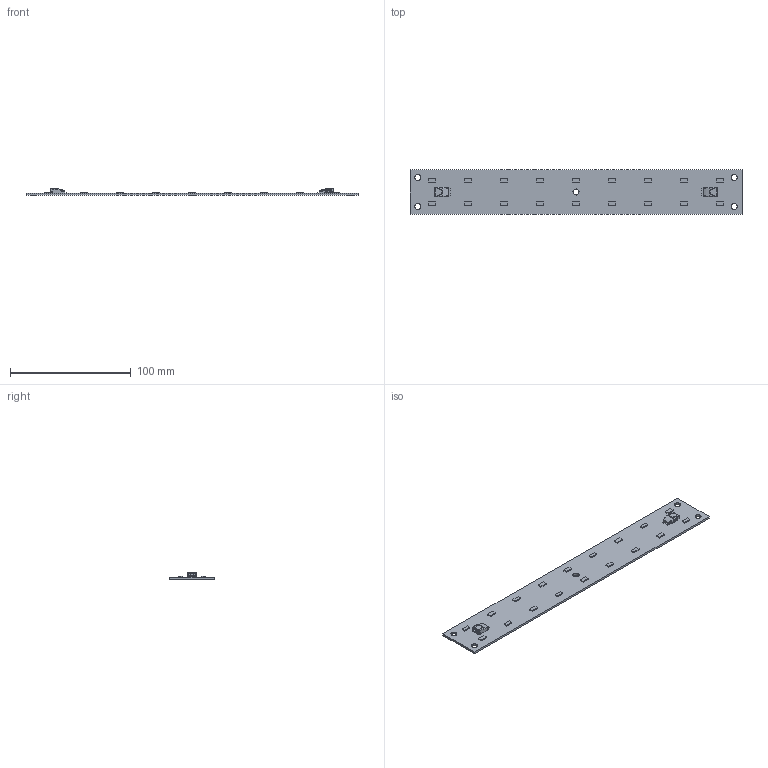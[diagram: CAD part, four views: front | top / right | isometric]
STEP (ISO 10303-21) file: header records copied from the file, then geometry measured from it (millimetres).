
FILE_DESCRIPTION(('ML18R5FL'),'2;1');
FILE_NAME('Z:\Mixdeal\Catalogo\Modelos 3D\STEP\ML18R5FL.stp','2015-06-26T15:25:58',('Nicolas Kretzig'),('MIXDEAL SA'),'Autodesk Inventor 2011','Autodesk Inventor 2011','');
FILE_SCHEMA(('AUTOMOTIVE_DESIGN { 1 0 10303 214 1 1 1 1 }'));
Length unit declared in the file: millimetre
Products named in the file (3): Placa ML18R5FL; ML18R5FL; 46-102-1001
Assembly tree (3 placements, depth 2):
  Placa ML18R5FL
    ML18R5FL
    46-102-1001  x2
Bounding box: 275 x 37 x 5.7 mm (x, y, z)
Volume: 18519.2 mm3; surface area: 22409.8 mm2
Topology: 3 solids, 3 shells, 821 faces, 2100 edges, 1395 vertices
Faces by surface type: plane 576, bspline 142, cylinder 93, torus 8, cone 2
Full cylindrical faces by diameter (mm): 0.6 x4, 5 x5
Entity records: 17557 total; most frequent: CARTESIAN_POINT 6267, ORIENTED_EDGE 2320, DIRECTION 1922, EDGE_CURVE 1160, VECTOR 892, LINE 892, VERTEX_POINT 774, EDGE_LOOP 542
